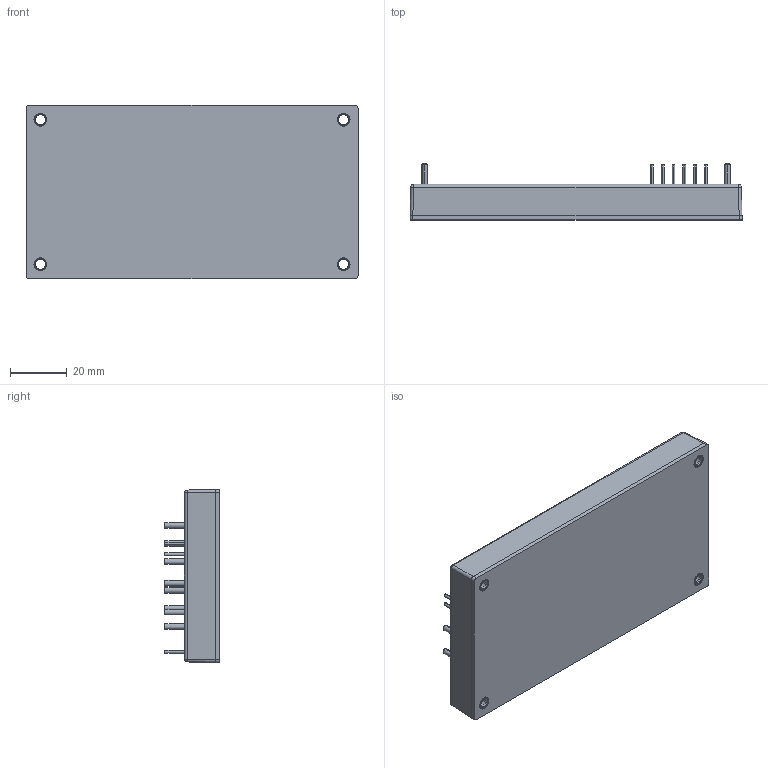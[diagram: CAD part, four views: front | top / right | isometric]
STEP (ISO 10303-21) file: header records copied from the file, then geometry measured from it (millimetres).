
FILE_DESCRIPTION (( 'STEP AP214' ), '1' );
FILE_NAME ('RDH600.STEP', '2018-07-12T08:42:20', ( '' ), ( '' ), 'SwSTEP 2.0', 'SolidWorks 2017', '' );
FILE_SCHEMA (( 'AUTOMOTIVE_DESIGN' ));
Length unit declared in the file: millimetre
Products named in the file (23): RDH600_MODULE_PIN_08; RDH600_MODULE_PIN_16; RDH600_MODULE_PIN_13; RDH600_MODULE_PIN_09; RDH600_MODULE_PIN_12; RDH600_MODULE_PIN_10; RDH600_MODULE_PIN_02; RDH600_MODULE_COVER; RDH600_MODULE_BODY; RDH600_BASEPLATE_INSERT; RDH600_BASEPLATE_ASSY; RDH600_MODULE_PIN_06; RDH600_MODULE_PIN_14; RDH600_MODULE_PIN_05; RDH600_MODULE_PIN_01; RDH600_MODULE_BODY_ASSY; RDH600_MODULE_PIN_04; RDH600_MODULE_PIN_03; RDH600_MODULE_PIN_11; RDH600; RDH600_MODULE_PIN_15; RDH600_MODULE_PIN_07; RDH600_BASEPLATE
Assembly tree (25 placements, depth 3):
  RDH600
    RDH600_MODULE_COVER
    RDH600_MODULE_BODY_ASSY
      RDH600_MODULE_BODY
      RDH600_MODULE_PIN_01
      RDH600_MODULE_PIN_02
      RDH600_MODULE_PIN_03
      RDH600_MODULE_PIN_04
      RDH600_MODULE_PIN_05
      RDH600_MODULE_PIN_06
      RDH600_MODULE_PIN_07
      RDH600_MODULE_PIN_08
      RDH600_MODULE_PIN_09
      RDH600_MODULE_PIN_10
      RDH600_MODULE_PIN_11
      RDH600_MODULE_PIN_12
      RDH600_MODULE_PIN_13
      RDH600_MODULE_PIN_14
      RDH600_MODULE_PIN_15
      RDH600_MODULE_PIN_16
    RDH600_BASEPLATE_ASSY
      RDH600_BASEPLATE
      RDH600_BASEPLATE_INSERT  x4
Bounding box: 116.8 x 19.7 x 61 mm (x, y, z)
Volume: 83359.4 mm3; surface area: 55224 mm2
Topology: 23 solids, 23 shells, 1283 faces, 3197 edges, 2046 vertices
Faces by surface type: plane 675, cylinder 246, bspline 192, cone 170
Entity records: 40964 total; most frequent: CARTESIAN_POINT 17050, ORIENTED_EDGE 5026, DIRECTION 4145, EDGE_CURVE 2513, VECTOR 1655, LINE 1655, VERTEX_POINT 1632, AXIS2_PLACEMENT_3D 1245
